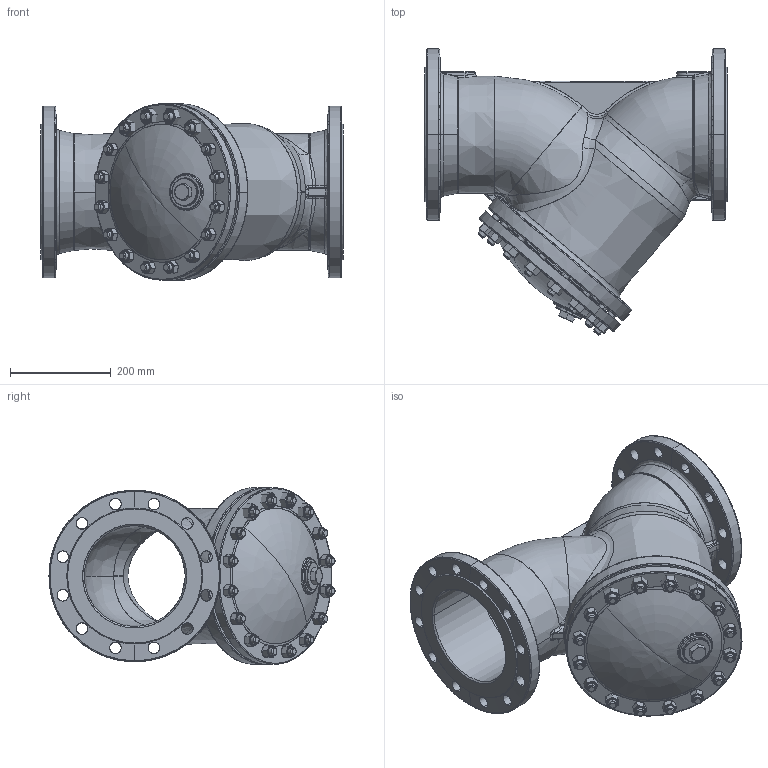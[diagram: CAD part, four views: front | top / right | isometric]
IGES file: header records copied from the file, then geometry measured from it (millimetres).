
Start section: SolidWorks IGES file using analytic representation for surfaces
Global section: file name: D:\katalog z³o¿eñ\00_Gotowe\821\RYSUNKI DXF\Z£O¯ENIA\Part\821_DN200_PN16.IGS; native system: SolidWorks 2010; preprocessor: SolidWorks 2010; author: alisowsk; date: 100108.130559; units: millimetre
Bounding box: 600 x 567.22 x 350 mm (x, y, z)
Surface area: 1751436.4 mm2 (no closed solid volume)
Topology: 0 solids, 0 shells, 940 faces, 18712 edges, 18700 vertices
Faces by surface type: revolution 504, bspline 436
